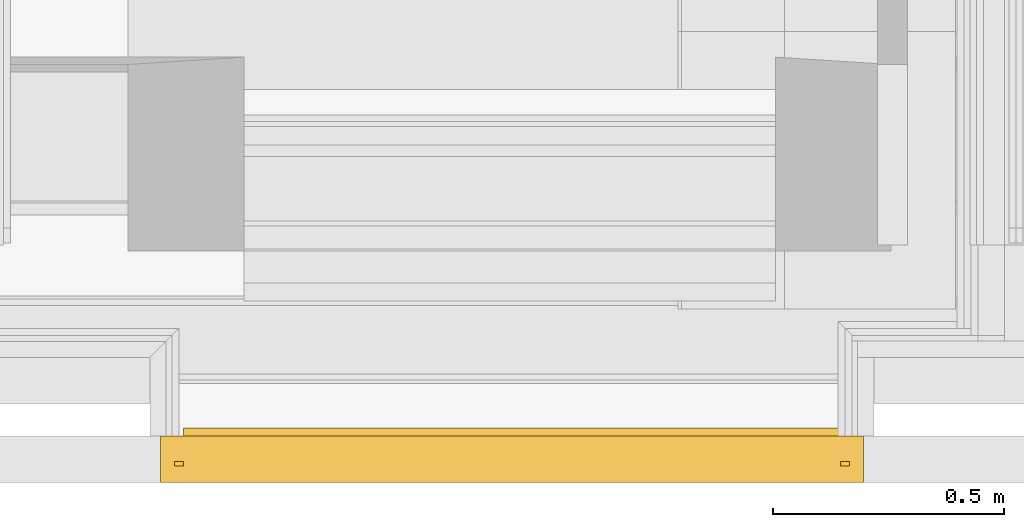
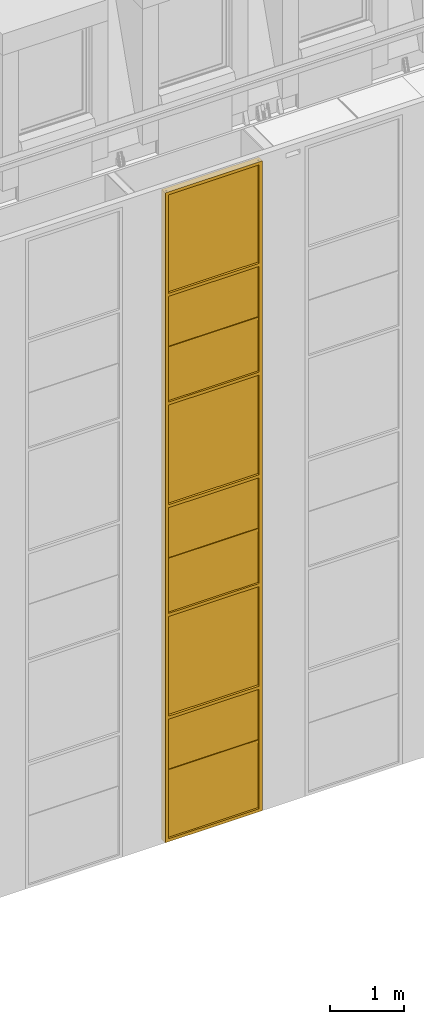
# One storey, part 101 of 169: 1 curtain wall.
"""IFC2X3 building model written with IfcOpenShell, lengths in metres."""

import ifcopenshell
import ifcopenshell.guid

model = None  # the IFC model being written
_history = None  # IfcOwnerHistory: only IFC2X3 demands one
_inside = {}  # id of a spatial element -> (the spatial element, [elements in it])
_under = {}  # id of a project, library or spatial element -> (it, [spatial elements below it])
_declared = {}  # id of a project -> (the project, [libraries it declares])
_typed = {}  # id of a type object -> (the type object, [elements of that type])
_made_of = {}  # id of a material, layer set ... -> (it, [elements and type objects made of it])


def new_model(schema):
    """Start an empty IFC model of exactly this schema.

    Asked for "IFC4X3", IfcOpenShell would pick the latest addendum, in which some entities
    have other attributes; the version numbers below select the first issue.
    IFC2X3 requires an IfcOwnerHistory on every rooted entity: one is made here for all.
    """
    global model, _history
    if schema == "IFC4X3":
        model = ifcopenshell.file(schema_version=(4, 3, 0, 0))
    else:
        model = ifcopenshell.file(schema=schema)
    _inside.clear()
    _under.clear()
    _declared.clear()
    _typed.clear()
    _made_of.clear()
    _history = None
    if model.schema == "IFC2X3":
        org = make("IfcOrganization", Name="unknown")
        user = make(
            "IfcPersonAndOrganization",
            ThePerson=make("IfcPerson", FamilyName="unknown"),
            TheOrganization=org,
        )
        app = make(
            "IfcApplication",
            ApplicationDeveloper=org,
            Version="unknown",
            ApplicationFullName="unknown",
            ApplicationIdentifier="unknown",
        )
        _history = make(
            "IfcOwnerHistory",
            OwningUser=user,
            OwningApplication=app,
            ChangeAction="ADDED",
            CreationDate=0,
        )
    return model


def make(cls, **values):
    """One entity of the class cls with the attributes given. An attribute that is None is left unset."""
    return model.create_entity(
        cls, **{name: value for name, value in values.items() if value is not None}
    )


def entity(cls, *values):
    """Any entity or typed value of the class cls, its attributes in the order of the schema. None: left unset."""
    e = model.create_entity(cls)
    for i, value in enumerate(values):
        if value is not None:
            e[i] = value
    return e


def rooted(cls, **values):
    """An entity with a GlobalId (a new one), such as an element, a storey or a relation."""
    return make(cls, GlobalId=ifcopenshell.guid.new(), OwnerHistory=_history, **values)


def si_unit(unit_type, name, prefix=None):
    """IfcSIUnit, for example si_unit("LENGTHUNIT", "METRE", prefix="MILLI")."""
    return make("IfcSIUnit", UnitType=unit_type, Prefix=prefix, Name=name)


def converted_unit(unit_type, name, factor, base, dimensions=None, offset=None):
    """IfcConversionBasedUnit, such as the inch: factor (a typed value) times the base unit."""
    return make(
        "IfcConversionBasedUnit"
        if offset is None
        else "IfcConversionBasedUnitWithOffset",
        ConversionOffset=offset,
        Dimensions=None
        if dimensions is None
        else entity("IfcDimensionalExponents", *dimensions),
        UnitType=unit_type,
        Name=name,
        ConversionFactor=make(
            "IfcMeasureWithUnit", ValueComponent=factor, UnitComponent=base
        ),
    )


def derived_unit(unit_type, elements):
    """IfcDerivedUnit: a product of units, each with its exponent."""
    return make(
        "IfcDerivedUnit",
        Elements=[
            make("IfcDerivedUnitElement", Unit=unit, Exponent=power)
            for unit, power in elements
        ],
        UnitType=unit_type,
    )


def money_unit(currency):
    """IfcMonetaryUnit."""
    return make("IfcMonetaryUnit", Currency=currency)


def assignment(units):
    """IfcUnitAssignment: the units of a project."""
    return None if units is None else make("IfcUnitAssignment", Units=units)


def point(xyz):
    """IfcCartesianPoint."""
    return None if xyz is None else make("IfcCartesianPoint", Coordinates=xyz)


def direction(xyz):
    """IfcDirection."""
    return None if xyz is None else make("IfcDirection", DirectionRatios=xyz)


def frame(location, z_axis=None, x_axis=None):
    """IfcAxis2Placement3D, a coordinate frame: its origin and axes. An axis left out is left unset."""
    return make(
        "IfcAxis2Placement3D",
        Location=point(location),
        Axis=direction(z_axis),
        RefDirection=direction(x_axis),
    )


def origin_with_axes():
    """The frame at (0, 0, 0) with the z axis (0, 0, 1) and the x axis (1, 0, 0) written out."""
    return frame((0.0, 0.0, 0.0), z_axis=(0.0, 0.0, 1.0), x_axis=(1.0, 0.0, 0.0))


def place(relative_to, where):
    """IfcLocalPlacement: puts the frame where relative to a parent placement (None: the world)."""
    return make(
        "IfcLocalPlacement", PlacementRelTo=relative_to, RelativePlacement=where
    )


def context(
    kind, dimensions, precision=None, world=None, true_north=None, identifier=None
):
    """IfcGeometricRepresentationContext, for example the 3D "Model" context."""
    return make(
        "IfcGeometricRepresentationContext",
        ContextIdentifier=identifier,
        ContextType=kind,
        CoordinateSpaceDimension=dimensions,
        Precision=precision,
        WorldCoordinateSystem=world,
        TrueNorth=true_north,
    )


def subcontext(parent, identifier, kind, view, scale=None):
    """IfcGeometricRepresentationSubContext, for example "Body" below "Model"."""
    return make(
        "IfcGeometricRepresentationSubContext",
        ContextIdentifier=identifier,
        ContextType=kind,
        ParentContext=parent,
        TargetScale=scale,
        TargetView=view,
    )


def project(units=None, contexts=None):
    """IfcProject with its units and contexts."""
    return rooted(
        "IfcProject",
        Name="project",
        RepresentationContexts=contexts,
        UnitsInContext=assignment(units),
    )


def spatial(cls, under=None, at=None, **own):
    """A site, building, storey or space (cls), placed at a placement, below another one or the project."""
    s = rooted(cls, ObjectPlacement=at, **own)
    if under is not None:
        _under.setdefault(under.id(), (under, []))[1].append(s)
    return s


def faces_of(points, faces, orient=None, outer=None):
    """IfcFace entities. A face is a list of loops; a loop is a list of indices into points, from 0.

    orient and outer hold one flag for each loop. By default every Orientation is true, the
    first loop of a face is its IfcFaceOuterBound and the others are IfcFaceBound.
    """
    made = []
    for i, loops in enumerate(faces):
        bounds = []
        for j, loop in enumerate(loops):
            is_outer = j == 0 if outer is None else outer[i][j]
            bounds.append(
                make(
                    "IfcFaceOuterBound" if is_outer else "IfcFaceBound",
                    Bound=make("IfcPolyLoop", Polygon=[points[k] for k in loop]),
                    Orientation=True if orient is None else orient[i][j],
                )
            )
        made.append(make("IfcFace", Bounds=bounds))
    return made


def faceted_brep(points, faces, orient=None, outer=None, voids=None):
    """IfcFacetedBrep: a solid bounded by flat faces; with voids (closed shells), ...WithVoids."""
    shared = [point(p) for p in points]
    hull = make("IfcClosedShell", CfsFaces=faces_of(shared, faces, orient, outer))
    if voids is None:
        return make("IfcFacetedBrep", Outer=hull)
    return make(
        "IfcFacetedBrepWithVoids",
        Outer=hull,
        Voids=[
            make(cls, CfsFaces=faces_of(shared, fs, o, b)) for cls, fs, o, b in voids
        ],
    )


def shape(context_of_items, identifier, shape_type, items):
    """IfcShapeRepresentation: the items that make up one representation, for example the "Body"."""
    return make(
        "IfcShapeRepresentation",
        ContextOfItems=context_of_items,
        RepresentationIdentifier=identifier,
        RepresentationType=shape_type,
        Items=items,
    )


def material(Name=None, Category=None):
    """IfcMaterial."""
    return make("IfcMaterial", Name=Name, Category=Category)


def made_of(thing, what):
    """Note that an element or type object is made of a material, layer set ...; save() writes the relation."""
    if what is not None:
        _made_of.setdefault(what.id(), (what, []))[1].append(thing)
    return thing


def type_object(cls, material=None, **own):
    """A type object (cls), such as IfcWallType, which elements share."""
    return made_of(rooted(cls, **own), material)


def element(
    cls,
    number,
    at=None,
    inside=None,
    cuts=None,
    type_object=None,
    material=None,
    context=None,
    identifier="Body",
    shape_type=None,
    held_by="IfcProductDefinitionShape",
    body=None,
    shapes=None,
    **own,
):
    """One element of the class cls, such as IfcWall. Its Tag is "e" and its number.

    at: its placement. inside: the storey or other place that contains it. cuts: it is an
    opening in that element (IfcRelVoidsElement). A single representation is given by context,
    identifier, shape_type and body (its items); several are given by shapes. held_by: the class
    of the entity that holds the representations. save() writes the other relations.
    """
    e = rooted(cls, Tag="e%d" % number, ObjectPlacement=at, **own)
    if body is not None:
        shapes = [shape(context, identifier, shape_type, body)]
    if shapes is not None:
        e.Representation = make(held_by, Representations=shapes)
    if inside is not None:
        _inside.setdefault(inside.id(), (inside, []))[1].append(e)
    if cuts is not None:
        rooted(
            "IfcRelVoidsElement", RelatingBuildingElement=cuts, RelatedOpeningElement=e
        )
    if type_object is not None:
        _typed.setdefault(type_object.id(), (type_object, []))[1].append(e)
    return made_of(e, material)


def aggregate(whole, parts):
    """IfcRelAggregates: a whole, such as a stair, and the parts it consists of."""
    return rooted("IfcRelAggregates", RelatingObject=whole, RelatedObjects=parts)


def save(model, path):
    """Write the relations noted so far, then the file.

    IfcRelAggregates (storeys below a building ...), IfcRelContainedInSpatialStructure (elements
    in a storey), IfcRelDefinesByType, IfcRelAssociatesMaterial and IfcRelDeclares: one each for
    every whole, place, type object, material and project.
    """
    for whole, parts in _under.values():
        aggregate(whole, parts)
    for where, things in _inside.values():
        rooted(
            "IfcRelContainedInSpatialStructure",
            RelatedElements=things,
            RelatingStructure=where,
        )
    for kind, things in _typed.values():
        rooted("IfcRelDefinesByType", RelatedObjects=things, RelatingType=kind)
    for what, things in _made_of.values():
        rooted("IfcRelAssociatesMaterial", RelatedObjects=things, RelatingMaterial=what)
    for by, libraries in _declared.values():
        rooted("IfcRelDeclares", RelatingContext=by, RelatedDefinitions=libraries)
    model.write(path)


model = new_model("IFC2X3")

# Units and contexts
model_context = context("Model", 3, precision=1e-05, world=origin_with_axes(), true_north=direction((0.0, 1.0)))
body_context = subcontext(model_context, "Body", "Model", "MODEL_VIEW", scale=1.0)
ifc_project = project(units=[si_unit("LENGTHUNIT", "METRE"), si_unit("AREAUNIT", "SQUARE_METRE"), si_unit("VOLUMEUNIT", "CUBIC_METRE"), si_unit("ABSORBEDDOSEUNIT", "GRAY"), si_unit("AMOUNTOFSUBSTANCEUNIT", "MOLE"), si_unit("DOSEEQUIVALENTUNIT", "SIEVERT"), si_unit("ELECTRICCAPACITANCEUNIT", "FARAD"), si_unit("ELECTRICCHARGEUNIT", "COULOMB"), si_unit("ELECTRICCONDUCTANCEUNIT", "SIEMENS"), si_unit("ELECTRICCURRENTUNIT", "AMPERE"), si_unit("ELECTRICRESISTANCEUNIT", "OHM"), si_unit("ELECTRICVOLTAGEUNIT", "VOLT"), si_unit("ENERGYUNIT", "JOULE"), si_unit("FORCEUNIT", "NEWTON"), si_unit("FREQUENCYUNIT", "HERTZ"), si_unit("ILLUMINANCEUNIT", "LUX"), si_unit("INDUCTANCEUNIT", "HENRY"), si_unit("LUMINOUSFLUXUNIT", "LUMEN"), si_unit("LUMINOUSINTENSITYUNIT", "CANDELA"), si_unit("MAGNETICFLUXDENSITYUNIT", "TESLA"), si_unit("MAGNETICFLUXUNIT", "WEBER"), si_unit("MASSUNIT", "GRAM"), converted_unit("PLANEANGLEUNIT", "degree", entity("IfcReal", 0.0174532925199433), si_unit("PLANEANGLEUNIT", "RADIAN"), dimensions=[0, 0, 0, 0, 0, 0, 0]), si_unit("POWERUNIT", "WATT"), si_unit("PRESSUREUNIT", "PASCAL"), si_unit("RADIOACTIVITYUNIT", "BECQUEREL"), si_unit("SOLIDANGLEUNIT", "STERADIAN"), si_unit("THERMODYNAMICTEMPERATUREUNIT", "KELVIN"), si_unit("TIMEUNIT", "SECOND"), derived_unit("ACCELERATIONUNIT", [(si_unit("LENGTHUNIT", "METRE"), 1), (si_unit("TIMEUNIT", "SECOND"), -2)]), derived_unit("ANGULARVELOCITYUNIT", [(converted_unit("PLANEANGLEUNIT", "degree", entity("IfcReal", 0.0174532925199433), si_unit("PLANEANGLEUNIT", "RADIAN"), dimensions=[0, 0, 0, 0, 0, 0, 0]), 1), (si_unit("TIMEUNIT", "SECOND"), -1)]), derived_unit("CURVATUREUNIT", [(converted_unit("PLANEANGLEUNIT", "degree", entity("IfcReal", 0.0174532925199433), si_unit("PLANEANGLEUNIT", "RADIAN"), dimensions=[0, 0, 0, 0, 0, 0, 0]), 1), (si_unit("LENGTHUNIT", "METRE"), -1)]), derived_unit("DYNAMICVISCOSITYUNIT", [(si_unit("PRESSUREUNIT", "PASCAL"), 1), (si_unit("TIMEUNIT", "SECOND"), 1)]), derived_unit("HEATFLUXDENSITYUNIT", [(si_unit("POWERUNIT", "WATT"), 1), (si_unit("LENGTHUNIT", "METRE"), -2)]), derived_unit("HEATINGVALUEUNIT", [(si_unit("ENERGYUNIT", "JOULE"), 1), (si_unit("MASSUNIT", "GRAM"), -1)]), derived_unit("INTEGERCOUNTRATEUNIT", [(si_unit("TIMEUNIT", "SECOND"), -1)]), derived_unit("IONCONCENTRATIONUNIT", [(si_unit("MASSUNIT", "GRAM"), 1), (si_unit("VOLUMEUNIT", "CUBIC_METRE"), -1)]), derived_unit("ISOTHERMALMOISTURECAPACITYUNIT", [(si_unit("VOLUMEUNIT", "CUBIC_METRE"), 1), (si_unit("MASSUNIT", "GRAM"), -1)]), derived_unit("KINEMATICVISCOSITYUNIT", [(si_unit("AREAUNIT", "SQUARE_METRE"), 1), (si_unit("TIMEUNIT", "SECOND"), -1)]), derived_unit("LINEARFORCEUNIT", [(si_unit("FORCEUNIT", "NEWTON"), 1), (si_unit("LENGTHUNIT", "METRE"), -1)]), derived_unit("LINEARMOMENTUNIT", [(si_unit("FORCEUNIT", "NEWTON"), 1), (si_unit("LENGTHUNIT", "METRE"), -1)]), derived_unit("LINEARSTIFFNESSUNIT", [(si_unit("FORCEUNIT", "NEWTON"), 1), (si_unit("LENGTHUNIT", "METRE"), -1)]), derived_unit("LINEARVELOCITYUNIT", [(si_unit("LENGTHUNIT", "METRE"), 1), (si_unit("TIMEUNIT", "SECOND"), -1)]), derived_unit("LUMINOUSINTENSITYDISTRIBUTIONUNIT", [(si_unit("LUMINOUSINTENSITYUNIT", "CANDELA"), 1), (si_unit("LUMINOUSFLUXUNIT", "LUMEN"), -1)]), derived_unit("MASSDENSITYUNIT", [(si_unit("MASSUNIT", "GRAM"), 1), (si_unit("VOLUMEUNIT", "CUBIC_METRE"), -1)]), derived_unit("MASSFLOWRATEUNIT", [(si_unit("MASSUNIT", "GRAM"), 1), (si_unit("TIMEUNIT", "SECOND"), -1)]), derived_unit("MASSPERLENGTHUNIT", [(si_unit("MASSUNIT", "GRAM"), 1), (si_unit("LENGTHUNIT", "METRE"), -1)]), derived_unit("MODULUSOFELASTICITYUNIT", [(si_unit("FORCEUNIT", "NEWTON"), 1), (si_unit("AREAUNIT", "SQUARE_METRE"), -1)]), derived_unit("MODULUSOFLINEARSUBGRADEREACTIONUNIT", [(si_unit("FORCEUNIT", "NEWTON"), 1), (si_unit("LENGTHUNIT", "METRE"), -2)]), derived_unit("MODULUSOFROTATIONALSUBGRADEREACTIONUNIT", [(si_unit("FORCEUNIT", "NEWTON"), 1), (si_unit("LENGTHUNIT", "METRE"), 1)]), derived_unit("MODULUSOFSUBGRADEREACTIONUNIT", [(si_unit("FORCEUNIT", "NEWTON"), 1), (si_unit("VOLUMEUNIT", "CUBIC_METRE"), -1)]), derived_unit("MOISTUREDIFFUSIVITYUNIT", [(si_unit("VOLUMEUNIT", "CUBIC_METRE"), 1), (si_unit("TIMEUNIT", "SECOND"), -1)]), derived_unit("MOLECULARWEIGHTUNIT", [(si_unit("MASSUNIT", "GRAM"), 1), (si_unit("AMOUNTOFSUBSTANCEUNIT", "MOLE"), -1)]), derived_unit("PLANARFORCEUNIT", [(si_unit("FORCEUNIT", "NEWTON"), 1), (si_unit("LENGTHUNIT", "METRE"), -2)]), derived_unit("ROTATIONALFREQUENCYUNIT", [(si_unit("TIMEUNIT", "SECOND"), -1)]), derived_unit("ROTATIONALMASSUNIT", [(si_unit("MASSUNIT", "GRAM"), 1), (si_unit("LENGTHUNIT", "METRE"), 2)]), derived_unit("ROTATIONALSTIFFNESSUNIT", [(si_unit("FORCEUNIT", "NEWTON"), 1), (si_unit("LENGTHUNIT", "METRE"), 1), (converted_unit("PLANEANGLEUNIT", "degree", entity("IfcReal", 0.0174532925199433), si_unit("PLANEANGLEUNIT", "RADIAN"), dimensions=[0, 0, 0, 0, 0, 0, 0]), -1)]), derived_unit("SECTIONAREAINTEGRALUNIT", [(si_unit("LENGTHUNIT", "METRE"), 5)]), derived_unit("SECTIONMODULUSUNIT", [(si_unit("LENGTHUNIT", "METRE"), 3)]), derived_unit("SHEARMODULUSUNIT", [(si_unit("FORCEUNIT", "NEWTON"), 1), (si_unit("AREAUNIT", "SQUARE_METRE"), -1)]), derived_unit("SOUNDPOWERUNIT", [(si_unit("ENERGYUNIT", "JOULE"), 1), (si_unit("TIMEUNIT", "SECOND"), -1)]), derived_unit("SPECIFICHEATCAPACITYUNIT", [(si_unit("FORCEUNIT", "NEWTON"), 1), (si_unit("MASSUNIT", "GRAM"), -1), (si_unit("THERMODYNAMICTEMPERATUREUNIT", "KELVIN"), -1)]), derived_unit("TEMPERATUREGRADIENTUNIT", [(si_unit("THERMODYNAMICTEMPERATUREUNIT", "KELVIN"), 1), (si_unit("LENGTHUNIT", "METRE"), -1)]), derived_unit("THERMALADMITTANCEUNIT", [(si_unit("POWERUNIT", "WATT"), 1), (si_unit("AREAUNIT", "SQUARE_METRE"), -1), (si_unit("THERMODYNAMICTEMPERATUREUNIT", "KELVIN"), -1)]), derived_unit("THERMALCONDUCTANCEUNIT", [(si_unit("POWERUNIT", "WATT"), 1), (si_unit("LENGTHUNIT", "METRE"), -1), (si_unit("THERMODYNAMICTEMPERATUREUNIT", "KELVIN"), -1)]), derived_unit("THERMALEXPANSIONCOEFFICIENTUNIT", [(si_unit("THERMODYNAMICTEMPERATUREUNIT", "KELVIN"), -1)]), derived_unit("THERMALRESISTANCEUNIT", [(si_unit("AREAUNIT", "SQUARE_METRE"), 1), (si_unit("POWERUNIT", "WATT"), -1)]), derived_unit("THERMALTRANSMITTANCEUNIT", [(si_unit("POWERUNIT", "WATT"), 1), (si_unit("AREAUNIT", "SQUARE_METRE"), -1), (si_unit("THERMODYNAMICTEMPERATUREUNIT", "KELVIN"), -1)]), derived_unit("TORQUEUNIT", [(si_unit("FORCEUNIT", "NEWTON"), 1), (si_unit("LENGTHUNIT", "METRE"), 1)]), derived_unit("VAPORPERMEABILITYUNIT", [(si_unit("MASSUNIT", "GRAM"), 1), (si_unit("TIMEUNIT", "SECOND"), -1)]), derived_unit("VOLUMETRICFLOWRATEUNIT", [(si_unit("VOLUMEUNIT", "CUBIC_METRE"), 1), (si_unit("TIMEUNIT", "SECOND"), -1)]), derived_unit("WARPINGCONSTANTUNIT", [(si_unit("LENGTHUNIT", "METRE"), 6)]), derived_unit("WARPINGMOMENTUNIT", [(si_unit("FORCEUNIT", "NEWTON"), 1), (si_unit("LENGTHUNIT", "METRE"), 2)]), money_unit("GBP")], contexts=[model_context])

# Site, building, storey
site_placement = place(None, origin_with_axes())
site = spatial("IfcSite", under=ifc_project, at=site_placement, Name="Site", CompositionType="ELEMENT")
building_placement = place(site_placement, origin_with_axes())
building = spatial("IfcBuilding", under=site, at=building_placement, Name="Building01", CompositionType="ELEMENT")
storey_placement = place(building_placement, frame((0.0, 0.0, 5.15), z_axis=(0.0, 0.0, 1.0), x_axis=(1.0, 0.0, 0.0)))
storey = spatial("IfcBuildingStorey", under=building, at=storey_placement, Name="1F", CompositionType="ELEMENT", Elevation=5.15)

# Curtain wall
ifc_material = material(Name="A-CurtainWall_Frame")
curtain_wall_type = type_object("IfcCurtainWallType", Name="Pattern - Maximum Spacing", PredefinedType="NOTDEFINED")
curtain_wall_placement = place(storey_placement, frame((0.0, 0.0, -5.15), z_axis=(0.0, 0.0, 1.0), x_axis=(1.0, 0.0, 0.0)))
element("IfcCurtainWall", 1, at=curtain_wall_placement, inside=storey, type_object=curtain_wall_type, material=ifc_material, Name="21", ObjectType="Pattern - Maximum Spacing", context=body_context, shape_type="Brep", body=[
    faceted_brep([(11.68, 0.05, 4.0), (11.68, 0.03, 4.0), (11.68, 0.03, 5.118945), (11.68, 0.05, 5.118945), (13.14, 0.05, 4.0), (13.14, 0.03, 4.0), (13.14, 0.05, 5.118945), (13.14, 0.03, 5.118945)], [[[0, 1, 2, 3]], [[4, 5, 1, 0]], [[6, 7, 5, 4]], [[3, 2, 7, 6]], [[1, 5, 7, 2]], [[3, 6, 4, 0]]]),
    faceted_brep([(11.7, 0.045, 3.97), (11.68, 0.045, 3.97), (11.68, 0.035, 3.97), (11.7, 0.035, 3.97), (11.7, 0.0, 3.97), (11.65, 0.0, 3.97), (11.65, 0.1, 3.97), (11.7, 0.1, 3.97), (11.7, 0.1, 5.123945), (11.7, 0.045, 5.123945), (11.68, 0.045, 5.123945), (11.68, 0.035, 5.123945), (11.7, 0.035, 5.123945), (11.7, 0.0, 5.123945), (11.65, 0.0, 5.123945), (11.65, 0.1, 5.123945)], [[[0, 1, 2, 3, 4, 5, 6, 7]], [[7, 8, 9, 0]], [[0, 9, 10, 1]], [[1, 10, 11, 2]], [[2, 11, 12, 3]], [[3, 12, 13, 4]], [[4, 13, 14, 5]], [[5, 14, 15, 6]], [[6, 15, 8, 7]]]),
    faceted_brep([(13.12, 0.045, 4.0), (13.12, 0.035, 4.0), (13.12, 0.035, 4.02), (13.12, 0.0, 4.02), (13.12, 0.0, 3.97), (13.12, 0.1, 3.97), (13.12, 0.1, 4.02), (13.12, 0.045, 4.02), (11.7, 0.045, 4.02), (11.7, 0.045, 4.0), (11.7, 0.035, 4.0), (11.7, 0.035, 4.02), (11.7, 0.0, 4.02), (11.7, 0.0, 3.97), (11.7, 0.1, 3.97), (11.7, 0.1, 4.02)], [[[0, 1, 2, 3, 4, 5, 6, 7]], [[7, 8, 9, 0]], [[0, 9, 10, 1]], [[1, 10, 11, 2]], [[2, 11, 12, 3]], [[3, 12, 13, 4]], [[4, 13, 14, 5]], [[5, 14, 15, 6]], [[6, 15, 8, 7]], [[8, 15, 14, 13, 12, 11, 10, 9]]]),
    faceted_brep([(13.12, 0.045, 3.97), (13.12, 0.045, 5.123945), (13.12, 0.1, 5.123945), (13.12, 0.1, 3.97), (13.14, 0.045, 3.97), (13.14, 0.045, 5.123945), (13.14, 0.035, 3.97), (13.14, 0.035, 5.123945), (13.12, 0.035, 3.97), (13.12, 0.035, 5.123945), (13.12, 0.0, 3.97), (13.12, 0.0, 5.123945), (13.17, 0.0, 3.97), (13.17, 0.0, 5.123945), (13.17, 0.1, 3.97), (13.17, 0.1, 5.123945)], [[[0, 1, 2, 3]], [[4, 5, 1, 0]], [[6, 7, 5, 4]], [[8, 9, 7, 6]], [[10, 11, 9, 8]], [[12, 13, 11, 10]], [[14, 15, 13, 12]], [[3, 2, 15, 14]], [[14, 12, 10, 8, 6, 4, 0, 3]]]),
    faceted_brep([(11.7, 0.0625, 5.118945), (11.7, 0.0525, 5.118945), (11.7, 0.0525, 5.098945), (11.7, 0.0175, 5.098945), (11.7, 0.0175, 5.148945), (11.7, 0.0525, 5.148945), (11.7, 0.0525, 5.128945), (11.7, 0.0625, 5.128945), (11.7, 0.0625, 5.148945), (11.7, 0.1175, 5.148945), (11.7, 0.1175, 5.098945), (11.7, 0.0625, 5.098945), (13.12, 0.0625, 5.098945), (13.12, 0.0625, 5.118945), (13.12, 0.0525, 5.118945), (13.12, 0.0525, 5.098945), (13.12, 0.0175, 5.098945), (13.12, 0.0175, 5.148945), (13.12, 0.0525, 5.148945), (13.12, 0.0625, 5.128945), (13.12, 0.0625, 5.148945), (13.12, 0.0525, 5.128945), (13.12, 0.1175, 5.098945), (13.12, 0.1175, 5.148945)], [[[0, 1, 2, 3, 4, 5, 6, 7, 8, 9, 10, 11]], [[11, 12, 13, 0]], [[0, 13, 14, 1]], [[1, 14, 15, 2]], [[2, 15, 16, 3]], [[3, 16, 17, 4]], [[4, 17, 18, 5]], [[7, 19, 20, 8]], [[6, 21, 19, 7]], [[5, 18, 21, 6]], [[10, 22, 12, 11]], [[9, 23, 22, 10]], [[8, 20, 23, 9]], [[20, 19, 21, 18, 17, 16, 15, 14, 13, 12, 22, 23]]]),
    faceted_brep([(11.68, 0.05, 5.128945), (11.68, 0.03, 5.128945), (11.68, 0.03, 6.018105), (11.68, 0.05, 6.018105), (13.14, 0.05, 5.128945), (13.14, 0.03, 5.128945), (13.14, 0.05, 6.018105), (13.14, 0.03, 6.018105)], [[[0, 1, 2, 3]], [[4, 5, 1, 0]], [[6, 7, 5, 4]], [[3, 2, 7, 6]], [[1, 5, 7, 2]], [[3, 6, 4, 0]]]),
    faceted_brep([(11.65, 0.1, 6.023105), (11.65, 0.1, 5.123945), (11.65, 0.0, 5.123945), (11.65, 0.0, 6.023105), (11.7, 0.1, 6.023105), (11.7, 0.1, 5.123945), (11.7, 0.045, 6.023105), (11.7, 0.045, 5.123945), (11.68, 0.045, 6.023105), (11.68, 0.045, 5.123945), (11.68, 0.035, 6.023105), (11.68, 0.035, 5.123945), (11.7, 0.035, 6.023105), (11.7, 0.035, 5.123945), (11.7, 0.0, 6.023105), (11.7, 0.0, 5.123945)], [[[0, 1, 2, 3]], [[4, 5, 1, 0]], [[6, 7, 5, 4]], [[8, 9, 7, 6]], [[10, 11, 9, 8]], [[12, 13, 11, 10]], [[14, 15, 13, 12]], [[3, 2, 15, 14]]]),
    faceted_brep([(13.12, 0.045, 5.123945), (13.12, 0.045, 6.023105), (13.12, 0.1, 6.023105), (13.12, 0.1, 5.123945), (13.14, 0.045, 5.123945), (13.14, 0.045, 6.023105), (13.14, 0.035, 5.123945), (13.14, 0.035, 6.023105), (13.12, 0.035, 5.123945), (13.12, 0.035, 6.023105), (13.12, 0.0, 5.123945), (13.12, 0.0, 6.023105), (13.17, 0.0, 5.123945), (13.17, 0.0, 6.023105), (13.17, 0.1, 5.123945), (13.17, 0.1, 6.023105)], [[[0, 1, 2, 3]], [[4, 5, 1, 0]], [[6, 7, 5, 4]], [[8, 9, 7, 6]], [[10, 11, 9, 8]], [[12, 13, 11, 10]], [[14, 15, 13, 12]], [[3, 2, 15, 14]]]),
    faceted_brep([(11.7, 0.045, 6.018105), (11.7, 0.035, 6.018105), (11.7, 0.035, 5.998105), (11.7, 0.0, 5.998105), (11.7, 0.0, 6.048105), (11.7, 0.035, 6.048105), (11.7, 0.035, 6.028105), (11.7, 0.045, 6.028105), (11.7, 0.045, 6.048105), (11.7, 0.1, 6.048105), (11.7, 0.1, 5.998105), (11.7, 0.045, 5.998105), (13.12, 0.045, 5.998105), (13.12, 0.045, 6.018105), (13.12, 0.035, 6.018105), (13.12, 0.035, 5.998105), (13.12, 0.0, 5.998105), (13.12, 0.0, 6.048105), (13.12, 0.035, 6.048105), (13.12, 0.045, 6.028105), (13.12, 0.045, 6.048105), (13.12, 0.035, 6.028105), (13.12, 0.1, 5.998105), (13.12, 0.1, 6.048105)], [[[0, 1, 2, 3, 4, 5, 6, 7, 8, 9, 10, 11]], [[11, 12, 13, 0]], [[0, 13, 14, 1]], [[1, 14, 15, 2]], [[2, 15, 16, 3]], [[3, 16, 17, 4]], [[4, 17, 18, 5]], [[7, 19, 20, 8]], [[6, 21, 19, 7]], [[5, 18, 21, 6]], [[10, 22, 12, 11]], [[9, 23, 22, 10]], [[8, 20, 23, 9]], [[20, 19, 21, 18, 17, 16, 15, 14, 13, 12, 22, 23]]]),
    faceted_brep([(11.68, 0.045, 6.028105), (11.68, 0.035, 6.028105), (11.68, 0.035, 7.716517), (11.68, 0.045, 7.716517), (13.14, 0.045, 6.028105), (13.14, 0.035, 6.028105), (13.14, 0.045, 7.716517), (13.14, 0.035, 7.716517)], [[[0, 1, 2, 3]], [[4, 5, 1, 0]], [[6, 7, 5, 4]], [[3, 2, 7, 6]], [[1, 5, 7, 2]], [[3, 6, 4, 0]]]),
    faceted_brep([(11.65, 0.1, 7.721517), (11.65, 0.1, 6.023105), (11.65, 0.0, 6.023105), (11.65, 0.0, 7.721517), (11.7, 0.1, 7.721517), (11.7, 0.1, 6.023105), (11.7, 0.045, 7.721517), (11.7, 0.045, 6.023105), (11.68, 0.045, 7.721517), (11.68, 0.045, 6.023105), (11.68, 0.035, 7.721517), (11.68, 0.035, 6.023105), (11.7, 0.035, 7.721517), (11.7, 0.035, 6.023105), (11.7, 0.0, 7.721517), (11.7, 0.0, 6.023105)], [[[0, 1, 2, 3]], [[4, 5, 1, 0]], [[6, 7, 5, 4]], [[8, 9, 7, 6]], [[10, 11, 9, 8]], [[12, 13, 11, 10]], [[14, 15, 13, 12]], [[3, 2, 15, 14]]]),
    faceted_brep([(13.12, 0.045, 6.023105), (13.12, 0.045, 7.721517), (13.12, 0.1, 7.721517), (13.12, 0.1, 6.023105), (13.14, 0.045, 6.023105), (13.14, 0.045, 7.721517), (13.14, 0.035, 6.023105), (13.14, 0.035, 7.721517), (13.12, 0.035, 6.023105), (13.12, 0.035, 7.721517), (13.12, 0.0, 6.023105), (13.12, 0.0, 7.721517), (13.17, 0.0, 6.023105), (13.17, 0.0, 7.721517), (13.17, 0.1, 6.023105), (13.17, 0.1, 7.721517)], [[[0, 1, 2, 3]], [[4, 5, 1, 0]], [[6, 7, 5, 4]], [[8, 9, 7, 6]], [[10, 11, 9, 8]], [[12, 13, 11, 10]], [[14, 15, 13, 12]], [[3, 2, 15, 14]]]),
    faceted_brep([(11.7, 0.045, 7.716517), (11.7, 0.035, 7.716517), (11.7, 0.035, 7.696517), (11.7, 0.0, 7.696517), (11.7, 0.0, 7.746517), (11.7, 0.035, 7.746517), (11.7, 0.035, 7.726517), (11.7, 0.045, 7.726517), (11.7, 0.045, 7.746517), (11.7, 0.1, 7.746517), (11.7, 0.1, 7.696517), (11.7, 0.045, 7.696517), (13.12, 0.045, 7.696517), (13.12, 0.045, 7.716517), (13.12, 0.035, 7.716517), (13.12, 0.035, 7.696517), (13.12, 0.0, 7.696517), (13.12, 0.0, 7.746517), (13.12, 0.035, 7.746517), (13.12, 0.045, 7.726517), (13.12, 0.045, 7.746517), (13.12, 0.035, 7.726517), (13.12, 0.1, 7.696517), (13.12, 0.1, 7.746517)], [[[0, 1, 2, 3, 4, 5, 6, 7, 8, 9, 10, 11]], [[11, 12, 13, 0]], [[0, 13, 14, 1]], [[1, 14, 15, 2]], [[2, 15, 16, 3]], [[3, 16, 17, 4]], [[4, 17, 18, 5]], [[7, 19, 20, 8]], [[6, 21, 19, 7]], [[5, 18, 21, 6]], [[10, 22, 12, 11]], [[9, 23, 22, 10]], [[8, 20, 23, 9]], [[20, 19, 21, 18, 17, 16, 15, 14, 13, 12, 22, 23]]]),
    faceted_brep([(11.68, 0.05, 7.726517), (11.68, 0.03, 7.726517), (11.68, 0.03, 8.615677), (11.68, 0.05, 8.615677), (13.14, 0.05, 7.726517), (13.14, 0.03, 7.726517), (13.14, 0.05, 8.615677), (13.14, 0.03, 8.615677)], [[[0, 1, 2, 3]], [[4, 5, 1, 0]], [[6, 7, 5, 4]], [[3, 2, 7, 6]], [[1, 5, 7, 2]], [[3, 6, 4, 0]]]),
    faceted_brep([(11.65, 0.1, 8.620677), (11.65, 0.1, 7.721517), (11.65, 0.0, 7.721517), (11.65, 0.0, 8.620677), (11.7, 0.1, 8.620677), (11.7, 0.1, 7.721517), (11.7, 0.045, 8.620677), (11.7, 0.045, 7.721517), (11.68, 0.045, 8.620677), (11.68, 0.045, 7.721517), (11.68, 0.035, 8.620677), (11.68, 0.035, 7.721517), (11.7, 0.035, 8.620677), (11.7, 0.035, 7.721517), (11.7, 0.0, 8.620677), (11.7, 0.0, 7.721517)], [[[0, 1, 2, 3]], [[4, 5, 1, 0]], [[6, 7, 5, 4]], [[8, 9, 7, 6]], [[10, 11, 9, 8]], [[12, 13, 11, 10]], [[14, 15, 13, 12]], [[3, 2, 15, 14]]]),
    faceted_brep([(13.12, 0.045, 7.721517), (13.12, 0.045, 8.620677), (13.12, 0.1, 8.620677), (13.12, 0.1, 7.721517), (13.14, 0.045, 7.721517), (13.14, 0.045, 8.620677), (13.14, 0.035, 7.721517), (13.14, 0.035, 8.620677), (13.12, 0.035, 7.721517), (13.12, 0.035, 8.620677), (13.12, 0.0, 7.721517), (13.12, 0.0, 8.620677), (13.17, 0.0, 7.721517), (13.17, 0.0, 8.620677), (13.17, 0.1, 7.721517), (13.17, 0.1, 8.620677)], [[[0, 1, 2, 3]], [[4, 5, 1, 0]], [[6, 7, 5, 4]], [[8, 9, 7, 6]], [[10, 11, 9, 8]], [[12, 13, 11, 10]], [[14, 15, 13, 12]], [[3, 2, 15, 14]]]),
    faceted_brep([(11.7, 0.0625, 8.615677), (11.7, 0.0525, 8.615677), (11.7, 0.0525, 8.595677), (11.7, 0.0175, 8.595677), (11.7, 0.0175, 8.645677), (11.7, 0.0525, 8.645677), (11.7, 0.0525, 8.625677), (11.7, 0.0625, 8.625677), (11.7, 0.0625, 8.645677), (11.7, 0.1175, 8.645677), (11.7, 0.1175, 8.595677), (11.7, 0.0625, 8.595677), (13.12, 0.0625, 8.595677), (13.12, 0.0625, 8.615677), (13.12, 0.0525, 8.615677), (13.12, 0.0525, 8.595677), (13.12, 0.0175, 8.595677), (13.12, 0.0175, 8.645677), (13.12, 0.0525, 8.645677), (13.12, 0.0625, 8.625677), (13.12, 0.0625, 8.645677), (13.12, 0.0525, 8.625677), (13.12, 0.1175, 8.595677), (13.12, 0.1175, 8.645677)], [[[0, 1, 2, 3, 4, 5, 6, 7, 8, 9, 10, 11]], [[11, 12, 13, 0]], [[0, 13, 14, 1]], [[1, 14, 15, 2]], [[2, 15, 16, 3]], [[3, 16, 17, 4]], [[4, 17, 18, 5]], [[7, 19, 20, 8]], [[6, 21, 19, 7]], [[5, 18, 21, 6]], [[10, 22, 12, 11]], [[9, 23, 22, 10]], [[8, 20, 23, 9]], [[20, 19, 21, 18, 17, 16, 15, 14, 13, 12, 22, 23]]]),
    faceted_brep([(11.68, 0.05, 8.625677), (11.68, 0.03, 8.625677), (11.68, 0.03, 9.514837), (11.68, 0.05, 9.514837), (13.14, 0.05, 8.625677), (13.14, 0.03, 8.625677), (13.14, 0.05, 9.514837), (13.14, 0.03, 9.514837)], [[[0, 1, 2, 3]], [[4, 5, 1, 0]], [[6, 7, 5, 4]], [[3, 2, 7, 6]], [[1, 5, 7, 2]], [[3, 6, 4, 0]]]),
    faceted_brep([(11.65, 0.1, 9.519837), (11.65, 0.1, 8.620677), (11.65, 0.0, 8.620677), (11.65, 0.0, 9.519837), (11.7, 0.1, 9.519837), (11.7, 0.1, 8.620677), (11.7, 0.045, 9.519837), (11.7, 0.045, 8.620677), (11.68, 0.045, 9.519837), (11.68, 0.045, 8.620677), (11.68, 0.035, 9.519837), (11.68, 0.035, 8.620677), (11.7, 0.035, 9.519837), (11.7, 0.035, 8.620677), (11.7, 0.0, 9.519837), (11.7, 0.0, 8.620677)], [[[0, 1, 2, 3]], [[4, 5, 1, 0]], [[6, 7, 5, 4]], [[8, 9, 7, 6]], [[10, 11, 9, 8]], [[12, 13, 11, 10]], [[14, 15, 13, 12]], [[3, 2, 15, 14]]]),
    faceted_brep([(13.12, 0.045, 8.620677), (13.12, 0.045, 9.519837), (13.12, 0.1, 9.519837), (13.12, 0.1, 8.620677), (13.14, 0.045, 8.620677), (13.14, 0.045, 9.519837), (13.14, 0.035, 8.620677), (13.14, 0.035, 9.519837), (13.12, 0.035, 8.620677), (13.12, 0.035, 9.519837), (13.12, 0.0, 8.620677), (13.12, 0.0, 9.519837), (13.17, 0.0, 8.620677), (13.17, 0.0, 9.519837), (13.17, 0.1, 8.620677), (13.17, 0.1, 9.519837)], [[[0, 1, 2, 3]], [[4, 5, 1, 0]], [[6, 7, 5, 4]], [[8, 9, 7, 6]], [[10, 11, 9, 8]], [[12, 13, 11, 10]], [[14, 15, 13, 12]], [[3, 2, 15, 14]]]),
    faceted_brep([(11.7, 0.045, 9.514837), (11.7, 0.035, 9.514837), (11.7, 0.035, 9.494837), (11.7, 0.0, 9.494837), (11.7, 0.0, 9.544837), (11.7, 0.035, 9.544837), (11.7, 0.035, 9.524837), (11.7, 0.045, 9.524837), (11.7, 0.045, 9.544837), (11.7, 0.1, 9.544837), (11.7, 0.1, 9.494837), (11.7, 0.045, 9.494837), (13.12, 0.045, 9.494837), (13.12, 0.045, 9.514837), (13.12, 0.035, 9.514837), (13.12, 0.035, 9.494837), (13.12, 0.0, 9.494837), (13.12, 0.0, 9.544837), (13.12, 0.035, 9.544837), (13.12, 0.045, 9.524837), (13.12, 0.045, 9.544837), (13.12, 0.035, 9.524837), (13.12, 0.1, 9.494837), (13.12, 0.1, 9.544837)], [[[0, 1, 2, 3, 4, 5, 6, 7, 8, 9, 10, 11]], [[11, 12, 13, 0]], [[0, 13, 14, 1]], [[1, 14, 15, 2]], [[2, 15, 16, 3]], [[3, 16, 17, 4]], [[4, 17, 18, 5]], [[7, 19, 20, 8]], [[6, 21, 19, 7]], [[5, 18, 21, 6]], [[10, 22, 12, 11]], [[9, 23, 22, 10]], [[8, 20, 23, 9]], [[20, 19, 21, 18, 17, 16, 15, 14, 13, 12, 22, 23]]]),
    faceted_brep([(11.68, 0.045, 9.524837), (11.68, 0.035, 9.524837), (11.68, 0.035, 11.213249), (11.68, 0.045, 11.213249), (13.14, 0.045, 9.524837), (13.14, 0.035, 9.524837), (13.14, 0.045, 11.213249), (13.14, 0.035, 11.213249)], [[[0, 1, 2, 3]], [[4, 5, 1, 0]], [[6, 7, 5, 4]], [[3, 2, 7, 6]], [[1, 5, 7, 2]], [[3, 6, 4, 0]]]),
    faceted_brep([(11.65, 0.1, 11.218249), (11.65, 0.1, 9.519837), (11.65, 0.0, 9.519837), (11.65, 0.0, 11.218249), (11.7, 0.1, 11.218249), (11.7, 0.1, 9.519837), (11.7, 0.045, 11.218249), (11.7, 0.045, 9.519837), (11.68, 0.045, 11.218249), (11.68, 0.045, 9.519837), (11.68, 0.035, 11.218249), (11.68, 0.035, 9.519837), (11.7, 0.035, 11.218249), (11.7, 0.035, 9.519837), (11.7, 0.0, 11.218249), (11.7, 0.0, 9.519837)], [[[0, 1, 2, 3]], [[4, 5, 1, 0]], [[6, 7, 5, 4]], [[8, 9, 7, 6]], [[10, 11, 9, 8]], [[12, 13, 11, 10]], [[14, 15, 13, 12]], [[3, 2, 15, 14]]]),
    faceted_brep([(13.12, 0.045, 9.519837), (13.12, 0.045, 11.218249), (13.12, 0.1, 11.218249), (13.12, 0.1, 9.519837), (13.14, 0.045, 9.519837), (13.14, 0.045, 11.218249), (13.14, 0.035, 9.519837), (13.14, 0.035, 11.218249), (13.12, 0.035, 9.519837), (13.12, 0.035, 11.218249), (13.12, 0.0, 9.519837), (13.12, 0.0, 11.218249), (13.17, 0.0, 9.519837), (13.17, 0.0, 11.218249), (13.17, 0.1, 9.519837), (13.17, 0.1, 11.218249)], [[[0, 1, 2, 3]], [[4, 5, 1, 0]], [[6, 7, 5, 4]], [[8, 9, 7, 6]], [[10, 11, 9, 8]], [[12, 13, 11, 10]], [[14, 15, 13, 12]], [[3, 2, 15, 14]]]),
    faceted_brep([(11.7, 0.045, 11.213249), (11.7, 0.035, 11.213249), (11.7, 0.035, 11.193249), (11.7, 0.0, 11.193249), (11.7, 0.0, 11.243249), (11.7, 0.035, 11.243249), (11.7, 0.035, 11.223249), (11.7, 0.045, 11.223249), (11.7, 0.045, 11.243249), (11.7, 0.1, 11.243249), (11.7, 0.1, 11.193249), (11.7, 0.045, 11.193249), (13.12, 0.045, 11.193249), (13.12, 0.045, 11.213249), (13.12, 0.035, 11.213249), (13.12, 0.035, 11.193249), (13.12, 0.0, 11.193249), (13.12, 0.0, 11.243249), (13.12, 0.035, 11.243249), (13.12, 0.045, 11.223249), (13.12, 0.045, 11.243249), (13.12, 0.035, 11.223249), (13.12, 0.1, 11.193249), (13.12, 0.1, 11.243249)], [[[0, 1, 2, 3, 4, 5, 6, 7, 8, 9, 10, 11]], [[11, 12, 13, 0]], [[0, 13, 14, 1]], [[1, 14, 15, 2]], [[2, 15, 16, 3]], [[3, 16, 17, 4]], [[4, 17, 18, 5]], [[7, 19, 20, 8]], [[6, 21, 19, 7]], [[5, 18, 21, 6]], [[10, 22, 12, 11]], [[9, 23, 22, 10]], [[8, 20, 23, 9]], [[20, 19, 21, 18, 17, 16, 15, 14, 13, 12, 22, 23]]]),
    faceted_brep([(11.68, 0.05, 11.223249), (11.68, 0.03, 11.223249), (11.68, 0.03, 12.112409), (11.68, 0.05, 12.112409), (13.14, 0.05, 11.223249), (13.14, 0.03, 11.223249), (13.14, 0.05, 12.112409), (13.14, 0.03, 12.112409)], [[[0, 1, 2, 3]], [[4, 5, 1, 0]], [[6, 7, 5, 4]], [[3, 2, 7, 6]], [[1, 5, 7, 2]], [[3, 6, 4, 0]]]),
    faceted_brep([(11.65, 0.1, 12.117409), (11.65, 0.1, 11.218249), (11.65, 0.0, 11.218249), (11.65, 0.0, 12.117409), (11.7, 0.1, 12.117409), (11.7, 0.1, 11.218249), (11.7, 0.045, 12.117409), (11.7, 0.045, 11.218249), (11.68, 0.045, 12.117409), (11.68, 0.045, 11.218249), (11.68, 0.035, 12.117409), (11.68, 0.035, 11.218249), (11.7, 0.035, 12.117409), (11.7, 0.035, 11.218249), (11.7, 0.0, 12.117409), (11.7, 0.0, 11.218249)], [[[0, 1, 2, 3]], [[4, 5, 1, 0]], [[6, 7, 5, 4]], [[8, 9, 7, 6]], [[10, 11, 9, 8]], [[12, 13, 11, 10]], [[14, 15, 13, 12]], [[3, 2, 15, 14]]]),
    faceted_brep([(13.12, 0.045, 11.218249), (13.12, 0.045, 12.117409), (13.12, 0.1, 12.117409), (13.12, 0.1, 11.218249), (13.14, 0.045, 11.218249), (13.14, 0.045, 12.117409), (13.14, 0.035, 11.218249), (13.14, 0.035, 12.117409), (13.12, 0.035, 11.218249), (13.12, 0.035, 12.117409), (13.12, 0.0, 11.218249), (13.12, 0.0, 12.117409), (13.17, 0.0, 11.218249), (13.17, 0.0, 12.117409), (13.17, 0.1, 11.218249), (13.17, 0.1, 12.117409)], [[[0, 1, 2, 3]], [[4, 5, 1, 0]], [[6, 7, 5, 4]], [[8, 9, 7, 6]], [[10, 11, 9, 8]], [[12, 13, 11, 10]], [[14, 15, 13, 12]], [[3, 2, 15, 14]]]),
    faceted_brep([(11.7, 0.0625, 12.112409), (11.7, 0.0525, 12.112409), (11.7, 0.0525, 12.092409), (11.7, 0.0175, 12.092409), (11.7, 0.0175, 12.142409), (11.7, 0.0525, 12.142409), (11.7, 0.0525, 12.122409), (11.7, 0.0625, 12.122409), (11.7, 0.0625, 12.142409), (11.7, 0.1175, 12.142409), (11.7, 0.1175, 12.092409), (11.7, 0.0625, 12.092409), (13.12, 0.0625, 12.092409), (13.12, 0.0625, 12.112409), (13.12, 0.0525, 12.112409), (13.12, 0.0525, 12.092409), (13.12, 0.0175, 12.092409), (13.12, 0.0175, 12.142409), (13.12, 0.0525, 12.142409), (13.12, 0.0625, 12.122409), (13.12, 0.0625, 12.142409), (13.12, 0.0525, 12.122409), (13.12, 0.1175, 12.092409), (13.12, 0.1175, 12.142409)], [[[0, 1, 2, 3, 4, 5, 6, 7, 8, 9, 10, 11]], [[11, 12, 13, 0]], [[0, 13, 14, 1]], [[1, 14, 15, 2]], [[2, 15, 16, 3]], [[3, 16, 17, 4]], [[4, 17, 18, 5]], [[7, 19, 20, 8]], [[6, 21, 19, 7]], [[5, 18, 21, 6]], [[10, 22, 12, 11]], [[9, 23, 22, 10]], [[8, 20, 23, 9]], [[20, 19, 21, 18, 17, 16, 15, 14, 13, 12, 22, 23]]]),
    faceted_brep([(13.14, 0.045, 14.69), (13.14, 0.035, 14.69), (13.14, 0.035, 13.021569), (13.14, 0.045, 13.021569), (11.68, 0.045, 14.69), (11.68, 0.035, 14.69), (11.68, 0.045, 13.021569), (11.68, 0.035, 13.021569)], [[[0, 1, 2, 3]], [[4, 5, 1, 0]], [[6, 7, 5, 4]], [[3, 2, 7, 6]], [[1, 5, 7, 2]], [[3, 6, 4, 0]]]),
    faceted_brep([(13.12, 0.045, 14.72), (13.14, 0.045, 14.72), (13.14, 0.035, 14.72), (13.12, 0.035, 14.72), (13.12, 0.0, 14.72), (13.17, 0.0, 14.72), (13.17, 0.1, 14.72), (13.12, 0.1, 14.72), (13.12, 0.1, 13.016569), (13.12, 0.045, 13.016569), (13.14, 0.045, 13.016569), (13.14, 0.035, 13.016569), (13.12, 0.035, 13.016569), (13.12, 0.0, 13.016569), (13.17, 0.0, 13.016569), (13.17, 0.1, 13.016569)], [[[0, 1, 2, 3, 4, 5, 6, 7]], [[7, 8, 9, 0]], [[0, 9, 10, 1]], [[1, 10, 11, 2]], [[2, 11, 12, 3]], [[3, 12, 13, 4]], [[4, 13, 14, 5]], [[5, 14, 15, 6]], [[6, 15, 8, 7]]]),
    faceted_brep([(11.7, 0.1, 14.67), (11.7, 0.045, 14.67), (11.7, 0.045, 14.69), (11.7, 0.035, 14.69), (11.7, 0.035, 14.67), (11.7, 0.0, 14.67), (11.7, 0.0, 14.72), (11.7, 0.1, 14.72), (13.12, 0.1, 14.72), (13.12, 0.1, 14.67), (13.12, 0.045, 14.67), (13.12, 0.045, 14.69), (13.12, 0.035, 14.69), (13.12, 0.035, 14.67), (13.12, 0.0, 14.67), (13.12, 0.0, 14.72)], [[[0, 1, 2, 3, 4, 5, 6, 7]], [[7, 8, 9, 0]], [[0, 9, 10, 1]], [[1, 10, 11, 2]], [[2, 11, 12, 3]], [[3, 12, 13, 4]], [[4, 13, 14, 5]], [[5, 14, 15, 6]], [[6, 15, 8, 7]], [[8, 15, 14, 13, 12, 11, 10, 9]]]),
    faceted_brep([(11.7, 0.045, 14.72), (11.7, 0.045, 13.016569), (11.7, 0.1, 13.016569), (11.7, 0.1, 14.72), (11.68, 0.045, 14.72), (11.68, 0.045, 13.016569), (11.68, 0.035, 14.72), (11.68, 0.035, 13.016569), (11.7, 0.035, 14.72), (11.7, 0.035, 13.016569), (11.7, 0.0, 14.72), (11.7, 0.0, 13.016569), (11.65, 0.0, 14.72), (11.65, 0.0, 13.016569), (11.65, 0.1, 14.72), (11.65, 0.1, 13.016569)], [[[0, 1, 2, 3]], [[4, 5, 1, 0]], [[6, 7, 5, 4]], [[8, 9, 7, 6]], [[10, 11, 9, 8]], [[12, 13, 11, 10]], [[14, 15, 13, 12]], [[3, 2, 15, 14]], [[14, 12, 10, 8, 6, 4, 0, 3]]]),
    faceted_brep([(13.12, 0.035, 13.011569), (13.12, 0.045, 13.011569), (13.12, 0.045, 12.991569), (13.12, 0.1, 12.991569), (13.12, 0.1, 13.041569), (13.12, 0.045, 13.041569), (13.12, 0.045, 13.021569), (13.12, 0.035, 13.021569), (13.12, 0.035, 13.041569), (13.12, 0.0, 13.041569), (13.12, 0.0, 12.991569), (13.12, 0.035, 12.991569), (11.7, 0.035, 12.991569), (11.7, 0.035, 13.011569), (11.7, 0.045, 13.011569), (11.7, 0.045, 12.991569), (11.7, 0.1, 12.991569), (11.7, 0.1, 13.041569), (11.7, 0.045, 13.041569), (11.7, 0.035, 13.021569), (11.7, 0.035, 13.041569), (11.7, 0.045, 13.021569), (11.7, 0.0, 12.991569), (11.7, 0.0, 13.041569)], [[[0, 1, 2, 3, 4, 5, 6, 7, 8, 9, 10, 11]], [[11, 12, 13, 0]], [[0, 13, 14, 1]], [[1, 14, 15, 2]], [[2, 15, 16, 3]], [[3, 16, 17, 4]], [[4, 17, 18, 5]], [[7, 19, 20, 8]], [[6, 21, 19, 7]], [[5, 18, 21, 6]], [[10, 22, 12, 11]], [[9, 23, 22, 10]], [[8, 20, 23, 9]], [[20, 19, 21, 18, 17, 16, 15, 14, 13, 12, 22, 23]]]),
    faceted_brep([(11.68, 0.05, 12.122409), (11.68, 0.03, 12.122409), (11.68, 0.03, 13.011569), (11.68, 0.05, 13.011569), (13.14, 0.05, 12.122409), (13.14, 0.03, 12.122409), (13.14, 0.05, 13.011569), (13.14, 0.03, 13.011569)], [[[0, 1, 2, 3]], [[4, 5, 1, 0]], [[6, 7, 5, 4]], [[3, 2, 7, 6]], [[1, 5, 7, 2]], [[3, 6, 4, 0]]]),
    faceted_brep([(11.65, 0.1, 13.016569), (11.65, 0.1, 12.117409), (11.65, 0.0, 12.117409), (11.65, 0.0, 13.016569), (11.7, 0.1, 13.016569), (11.7, 0.1, 12.117409), (11.7, 0.045, 13.016569), (11.7, 0.045, 12.117409), (11.68, 0.045, 13.016569), (11.68, 0.045, 12.117409), (11.68, 0.035, 13.016569), (11.68, 0.035, 12.117409), (11.7, 0.035, 13.016569), (11.7, 0.035, 12.117409), (11.7, 0.0, 13.016569), (11.7, 0.0, 12.117409)], [[[0, 1, 2, 3]], [[4, 5, 1, 0]], [[6, 7, 5, 4]], [[8, 9, 7, 6]], [[10, 11, 9, 8]], [[12, 13, 11, 10]], [[14, 15, 13, 12]], [[3, 2, 15, 14]]]),
    faceted_brep([(13.12, 0.045, 12.117409), (13.12, 0.045, 13.016569), (13.12, 0.1, 13.016569), (13.12, 0.1, 12.117409), (13.14, 0.045, 12.117409), (13.14, 0.045, 13.016569), (13.14, 0.035, 12.117409), (13.14, 0.035, 13.016569), (13.12, 0.035, 12.117409), (13.12, 0.035, 13.016569), (13.12, 0.0, 12.117409), (13.12, 0.0, 13.016569), (13.17, 0.0, 12.117409), (13.17, 0.0, 13.016569), (13.17, 0.1, 12.117409), (13.17, 0.1, 13.016569)], [[[0, 1, 2, 3]], [[4, 5, 1, 0]], [[6, 7, 5, 4]], [[8, 9, 7, 6]], [[10, 11, 9, 8]], [[12, 13, 11, 10]], [[14, 15, 13, 12]], [[3, 2, 15, 14]]]),
])

save(model, "model.ifc")
